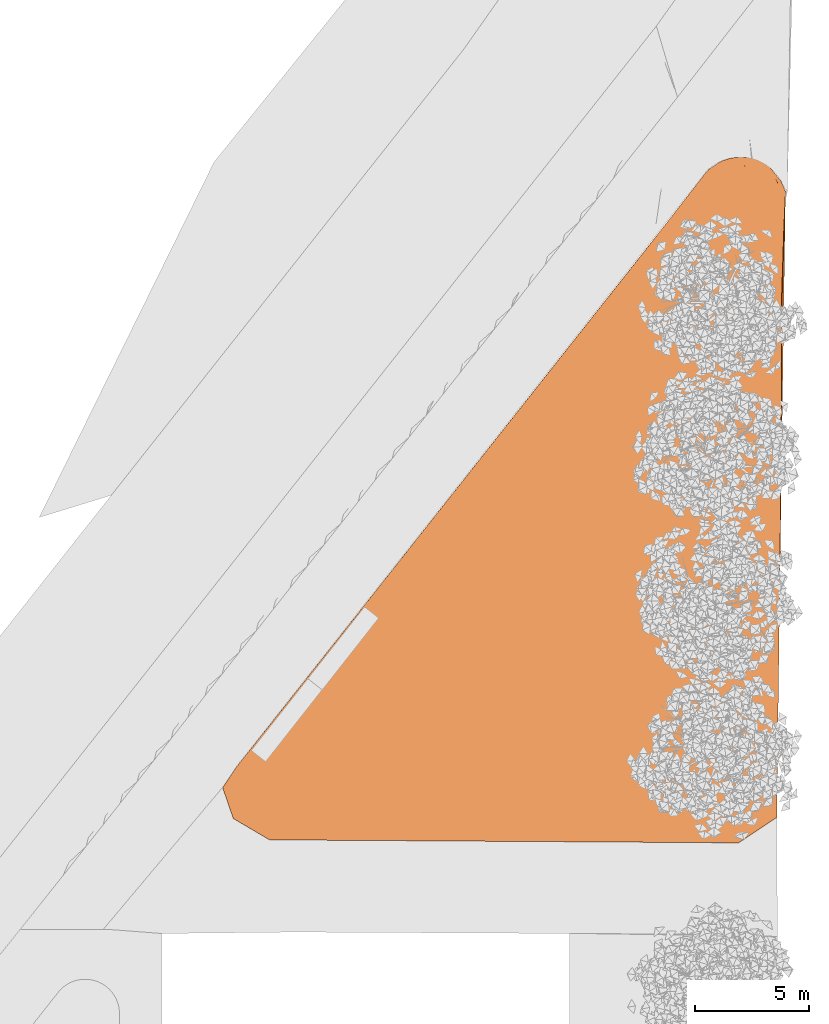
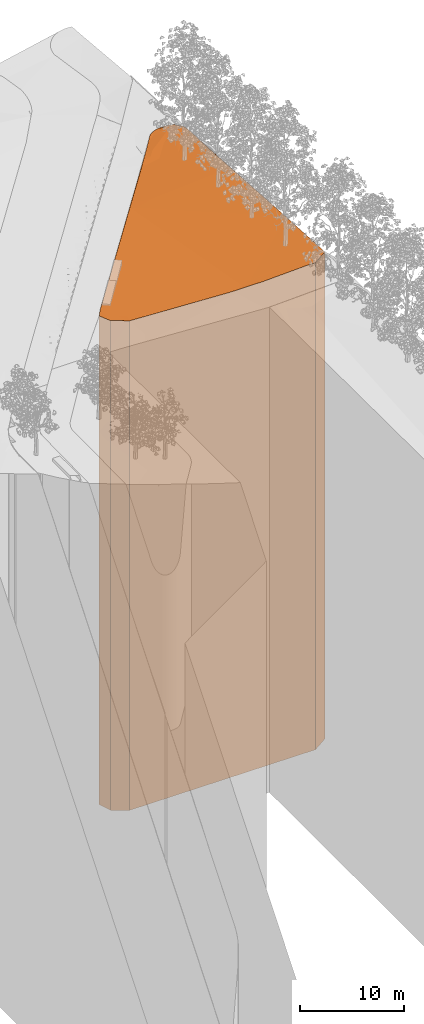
# One storey, part 67 of 69: 1 proxy.
"""IFC2X3 building model written with IfcOpenShell, lengths in millimetres."""

from ifc_helpers import new_model, entity, si_unit, converted_unit, derived_unit, money_unit, direction, frame, origin_with_axes, place, context, subcontext, project, spatial, faceted_brep, material, type_object, element, save


model = new_model("IFC2X3")

# Units and contexts
model_context = context("Model", 3, precision=0.01, world=origin_with_axes(), true_north=direction((0.0, 1.0)))
body_context = subcontext(model_context, "Body", "Model", "MODEL_VIEW")
ifc_project = project(units=[si_unit("LENGTHUNIT", "METRE", prefix="MILLI"), si_unit("AREAUNIT", "SQUARE_METRE"), si_unit("VOLUMEUNIT", "CUBIC_METRE"), converted_unit("PLANEANGLEUNIT", "DEGREE", entity("IfcPlaneAngleMeasure", 0.0174532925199), si_unit("PLANEANGLEUNIT", "RADIAN"), dimensions=[0, 0, 0, 0, 0, 0, 0]), si_unit("SOLIDANGLEUNIT", "STERADIAN"), money_unit("EUR"), converted_unit("TIMEUNIT", "Year", entity("IfcTimeMeasure", 31556926.0), si_unit("TIMEUNIT", "SECOND"), dimensions=[0, 0, 1, 0, 0, 0, 0]), si_unit("MASSUNIT", "GRAM", prefix="KILO"), si_unit("THERMODYNAMICTEMPERATUREUNIT", "DEGREE_CELSIUS"), si_unit("LUMINOUSINTENSITYUNIT", "LUMEN"), si_unit("ENERGYUNIT", "JOULE", prefix="MEGA"), derived_unit("THERMALCONDUCTANCEUNIT", [(si_unit("POWERUNIT", "WATT"), 1), (si_unit("LENGTHUNIT", "METRE"), -1), (si_unit("THERMODYNAMICTEMPERATUREUNIT", "KELVIN"), -1)]), derived_unit("SPECIFICHEATCAPACITYUNIT", [(si_unit("ENERGYUNIT", "JOULE"), 1), (si_unit("MASSUNIT", "GRAM", prefix="KILO"), -1), (si_unit("THERMODYNAMICTEMPERATUREUNIT", "KELVIN"), -1)]), derived_unit("MASSDENSITYUNIT", [(si_unit("MASSUNIT", "GRAM", prefix="KILO"), 1), (si_unit("VOLUMEUNIT", "CUBIC_METRE"), -1)])], contexts=[model_context])

# Site, building, storey
site_placement = place(None, origin_with_axes())
site = spatial("IfcSite", under=ifc_project, at=site_placement, Name="Puškini 31, Narva", CompositionType="ELEMENT")
building_placement = place(site_placement, origin_with_axes())
building = spatial("IfcBuilding", under=site, at=building_placement, Name="Narva Riigigümnaasium", CompositionType="ELEMENT")
storey_placement = place(building_placement, origin_with_axes())
storey = spatial("IfcBuildingStorey", under=building, at=storey_placement, Name="1.korrus 0.00", CompositionType="ELEMENT", Elevation=0.0)

# Proxy
ifc_material = material(Name="Roheala")
building_element_proxy_type = type_object("IfcBuildingElementProxyType", Name="Roheala", PredefinedType="NOTDEFINED")
proxy_placement = place(storey_placement, frame((39629.7251084, 258402.441292, -61100.0), z_axis=(0.0, 0.0, 1.0), x_axis=(1.0, 0.0, 0.0)))
element("IfcBuildingElementProxy", 1, at=proxy_placement, inside=storey, type_object=building_element_proxy_type, material=ifc_material, Name="Roheala", context=body_context, shape_type="Brep", body=[
    faceted_brep([(2904.54553441, 3594.56896008, 57000.0), (2609.96351291, 2399.85161199, 57100.0), (6367.47388506, 102.533447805, 57100.0), (8639.69294336, 88.1359727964, 57000.0), (662.749574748, 3392.37241465, 57100.0), (1420.95396237, 4350.77528567, 57000.0), (2315.38149141, 1205.1342639, 57200.0), (4095.25482502, 116.930922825, 57200.0), (22549.370647, 0.0, 0.0), (22549.370647, 0.0, 57000.0), (21452.1332132, 6.9524320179, 57000.0), (19117.1116972, 21.7478426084, 56900.0), (16819.8848379, 36.3037746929, 56800.0), (13184.1310617, 59.3410227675, 56800.0), (10911.9120034, 73.7384977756, 56900.0), (2050.25767205, 129.888650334, 57300.0), (2050.25767205, 129.888650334, 0.0), (3199.12755591, 4789.28630818, 56900.0), (1393.01699431, 1675.2756964, 57200.0), (2179.15835024, 5309.17815759, 56900.0), (2937.36273787, 6267.5810286, 56800.0), (3695.56712573, 7225.98390053, 56700.0), (19289.7292574, 26944.9830587, 54700.0), (24215.7741801, 1107.10190918, 0.0), (24215.7741801, 1107.10190918, 57000.0), (24226.5201784, 1927.80190138, 57000.0), (22790.3170119, 466.187674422, 57000.0), (24240.0546832, 2961.46743889, 56900.0), (18506.4485205, 1004.11159893, 56800.0), (14764.4031787, 470.148042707, 56700.0), (3493.70957741, 5984.00365627, 56800.0), (465.393469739, 1062.17178603, 57300.0), (465.393469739, 1062.17178603, 0.0), (0.0, 2418.94348962, 0.0), (662.749574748, 3392.37241465, 0.0), (19289.7292574, 26944.9830587, 0.0), (21077.3930812, 29241.2131648, 0.0), (21220.7590855, 29416.6556468, 0.0), (21709.3009811, 29739.7990023, 0.0), (21828.7783874, 29796.9561786, 0.0), (21964.1467099, 29849.4440576, 0.0), (22102.8466514, 29892.3612619, 0.0), (22244.2024796, 29925.4987033, 0.0), (22387.5255231, 29948.6949393, 0.0), (22532.1175266, 29961.8369604, 0.0), (22677.2740523, 29964.8607399, 0.0), (22822.2879121, 29957.7515463, 0.0), (22894.3702627, 29949.1477805, 0.0), (22959.3677245, 29945.693599, 0.0), (23086.0344585, 29928.7940434, 0.0), (23210.9581062, 29901.8842169, 0.0), (23333.3488598, 29865.134252, 0.0), (23452.4329257, 29818.7764938, 0.0), (23567.4574161, 29763.104031, 0.0), (23677.6951091, 29698.4688429, 0.0), (23782.4490465, 29625.2795739, 0.0), (23881.0569403, 29543.9989501, 0.0), (23972.8953594, 29455.1408539, 0.0), (24015.1395157, 29407.2039643, 0.0), (24403.5928757, 28919.9528302, 0.0), (24596.7960225, 28465.1751512, 0.0), (24342.9498848, 10819.8431241, 0.0), (558.877940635, 2165.9510316, 57200.0), (3788.29159879, 7178.72100438, 56700.0), (4436.84861418, 8162.99550119, 56600.0), (24342.9498848, 10819.8431241, 56300.0), (24325.9346117, 9520.34221377, 56400.0), (24308.801357, 8211.8307352, 56500.0), (24291.6162666, 6899.36043477, 56600.0), (24274.4311763, 5586.89013434, 56700.0), (24257.246086, 4274.41983468, 56800.0), (18700.6711012, 1239.4443765, 56800.0), (15868.5033408, 995.611378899, 56700.0), (8232.71680745, 4461.42743784, 56700.0), (0.0, 2418.94348962, 57200.0), (20481.5051415, 28475.8031317, 54600.0), (21077.3930812, 29241.2131648, 54600.0), (21220.7590855, 29416.6556468, 54600.0), (21709.3009811, 29739.7990023, 54584.1176568), (21828.7783874, 29796.9561786, 54586.4709635), (21964.1467099, 29849.4440576, 54589.0978971), (22102.8466514, 29892.3612619, 54591.7546324), (22244.2024796, 29925.4987033, 54594.4282263), (22387.5255231, 29948.6949393, 54597.1056532), (22532.1175266, 29961.8369604, 54599.7738689), (22677.2740523, 29964.8607399, 54602.4198743), (22822.2879121, 29957.7515463, 54605.0307782), (22894.3702627, 29949.1477805, 54606.3123193), (22959.3677245, 29945.693599, 54615.6502496), (23086.0344585, 29928.7940434, 54634.5366326), (23210.9581062, 29901.8842169, 54653.8568503), (23333.3488598, 29865.134252, 54673.4887541), (23452.4329257, 29818.7764938, 54693.3082248), (23567.4574161, 29763.104031, 54713.1899573), (23677.6951091, 29698.4688429, 54733.0082529), (23782.4490465, 29625.2795739, 54752.637814), (23881.0569403, 29543.9989501, 54771.9545361), (23972.8953594, 29455.1408539, 54790.8362927), (24015.1395157, 29407.2039643, 54800.0), (24403.5928757, 28919.9528302, 54840.0439094), (24596.7960225, 28465.1751512, 54875.3748262), (5173.89937773, 9094.65928382, 56500.0), (5910.95014142, 10026.3230674, 56400.0), (6648.00090497, 10957.98685, 56300.0), (7385.05166877, 11889.6506335, 56200.0), (8122.10243233, 12821.3144161, 56100.0), (8859.15319601, 13752.9781997, 56000.0), (9596.20395957, 14684.6419823, 55900.0), (10333.2547233, 15616.3057659, 55800.0), (11070.3054869, 16547.9695485, 55700.0), (11807.3562506, 17479.633332, 55600.0), (12544.4070142, 18411.2971146, 55500.0), (22490.3759356, 10350.3329947, 56300.0), (23639.3221992, 9346.3294662, 56400.0), (22918.6588534, 7452.54135439, 56500.0), (19393.581097, 4224.07636665, 56600.0), (14609.147061, 1947.06857341, 56600.0), (22030.3563656, 28979.5615136, 54700.0), (21395.0475085, 29153.9959484, 54600.0), (21488.0065542, 29263.1704377, 54600.0), (21288.0290471, 29407.4084431, 54600.0), (22309.2335033, 29307.0849833, 54700.0), (22830.4941911, 29567.3565379, 54800.0), (23130.4604524, 29350.999528, 54800.0), (23951.6874006, 29394.9140727, 54800.0), (24261.6395972, 28838.3689249, 54900.0), (24356.7604959, 12118.5318556, 56200.0), (14453.8909432, 3423.98910413, 56500.0), (14298.6348257, 4900.90963575, 56400.0), (14143.378708, 6377.83016645, 56300.0), (13988.1225904, 7854.75069807, 56200.0), (13832.8664727, 9331.67122878, 56100.0), (13677.610355, 10808.5917604, 56000.0), (13522.3542374, 12285.5122911, 55900.0), (13367.0981198, 13762.4328227, 55800.0), (13211.8420021, 15239.3533534, 55700.0), (13056.5858843, 16716.2738842, 55600.0), (12901.3297667, 18193.1944158, 55500.0), (13279.6829226, 19340.7174047, 55400.0), (21341.4296717, 11354.3365223, 56200.0), (19999.109117, 26825.5372316, 54800.0), (22665.6652226, 28805.1270797, 54800.0), (23936.2829368, 28456.2582119, 54900.0), (24378.3532179, 14714.381475, 56000.0), (24367.5568569, 13416.4566648, 56100.0), (24410.742301, 18608.1559044, 55700.0), (24399.9459399, 17310.2310943, 55800.0), (24389.1495789, 16012.3062851, 55900.0), (20192.4834079, 12358.3400499, 56100.0), (19043.5371441, 13362.3435775, 56000.0), (17894.5908804, 14366.3471061, 55900.0), (16745.6446166, 15370.3506337, 55800.0), (15596.6983528, 16374.3541613, 55700.0), (14447.7520889, 17378.3576889, 55600.0), (13298.8058253, 18382.3612174, 55500.0), (14013.7755939, 20268.6420318, 55300.0), (14747.8682653, 21196.5666599, 55200.0), (15481.9609367, 22124.491287, 55100.0), (16216.0536081, 23052.4159151, 55000.0), (16950.1462794, 23980.3405422, 54900.0), (17684.238951, 24908.2651703, 54800.0), (19464.9014581, 26180.7806161, 54800.0), (23300.9740797, 28630.6926458, 54800.0), (19316.2237207, 25997.904674, 54800.0), (18418.3316223, 25836.1897974, 54800.0), (19864.8340468, 25301.0012967, 54800.0), (20225.908552, 25745.128586, 54800.0), (21523.2700092, 27310.9660801, 54800.0), (24571.5917939, 28281.823778, 54900.0), (24417.5655912, 19927.311038, 55600.0), (22374.9340363, 19387.3961006, 55600.0), (15563.714953, 18956.3721916, 55500.0), (22059.2753516, 22513.3877909, 55200.0), (22607.8856779, 21816.4844145, 55300.0), (21510.6650255, 23210.2911673, 55100.0), (20962.0546993, 23907.1945438, 55000.0), (20413.444373, 24604.0979202, 54900.0), (23156.4960041, 21119.581038, 55400.0), (20986.9156461, 25309.4765568, 54900.0), (23047.4309016, 27796.3949295, 54900.0), (21747.9227401, 24873.8245266, 55000.0), (24525.8363013, 26872.4576762, 55100.0), (24253.7166566, 19725.7742852, 55600.0), (24415.1183825, 21296.0035912, 55500.0), (24412.6711741, 22664.6961453, 55400.0), (23705.1063303, 20422.6776616, 55500.0), (23269.936928, 24002.5204663, 55200.0), (24030.9440222, 23566.8684371, 55300.0), (22508.929834, 24438.1724965, 55100.0), (24480.0808088, 25463.0915754, 55200.0), (24434.3253161, 24053.7254737, 55300.0)], [[[0, 1, 2, 3]], [[4, 1, 0, 5]], [[1, 6, 7, 2]], [[8, 9, 10, 11, 12, 13, 14, 3, 2, 7, 15, 16]], [[3, 14, 17, 0]], [[1, 4, 18, 6]], [[0, 17, 19, 5]], [[5, 19, 20, 21, 22, 4]], [[15, 7, 6]], [[23, 24, 9, 8]], [[9, 24, 25, 26, 10]], [[10, 27, 11]], [[12, 11, 28]], [[13, 12, 29]], [[17, 14, 13, 30]], [[16, 15, 31, 32]], [[33, 34, 35, 36, 37, 38, 39, 40, 41, 42, 43, 44, 45, 46, 47, 48, 49, 50, 51, 52, 53, 54, 55, 56, 57, 58, 59, 60, 61, 23, 8, 16, 32]], [[4, 62, 18]], [[6, 18, 15]], [[17, 30, 20, 19]], [[30, 63, 21, 20]], [[64, 22, 21]], [[34, 4, 22, 35]], [[61, 65, 66, 67, 68, 69, 70, 27, 25, 24, 23]], [[25, 27, 26]], [[26, 27, 10]], [[71, 11, 27]], [[71, 28, 11]], [[28, 72, 12]], [[29, 12, 72]], [[13, 29, 73]], [[63, 30, 13, 73]], [[18, 62, 31, 15]], [[32, 31, 74, 33]], [[33, 74, 4, 34]], [[35, 22, 75, 76, 36]], [[36, 76, 77, 37]], [[37, 77, 78, 38]], [[38, 78, 79, 39]], [[39, 79, 80, 40]], [[40, 80, 81, 41]], [[41, 81, 82, 42]], [[42, 82, 83, 43]], [[43, 83, 84, 44]], [[44, 84, 85, 45]], [[45, 85, 86, 46]], [[46, 86, 87, 47]], [[47, 87, 88, 48]], [[48, 88, 89, 49]], [[49, 89, 90, 50]], [[50, 90, 91, 51]], [[51, 91, 92, 52]], [[52, 92, 93, 53]], [[53, 93, 94, 54]], [[54, 94, 95, 55]], [[55, 95, 96, 56]], [[56, 96, 97, 57]], [[57, 97, 98, 58]], [[58, 98, 99, 59]], [[59, 99, 100, 60]], [[60, 100, 65, 61]], [[4, 74, 62]], [[21, 63, 64]], [[101, 102, 103, 104, 105, 106, 107, 108, 109, 110, 111, 22, 64]], [[65, 112, 113, 66]], [[66, 113, 67]], [[67, 114, 115, 68]], [[115, 72, 69, 68]], [[71, 70, 69, 72]], [[27, 70, 71]], [[71, 72, 28]], [[72, 115, 116, 29]], [[116, 64, 73, 29]], [[63, 73, 64]], [[74, 31, 62]], [[75, 22, 117, 118]], [[77, 76, 75, 118, 119, 120]], [[77, 120, 78]], [[79, 78, 121]], [[80, 79, 121]], [[81, 80, 121]], [[82, 81, 121]], [[83, 82, 121]], [[84, 83, 122]], [[85, 84, 122]], [[85, 122, 86]], [[86, 122, 87]], [[87, 122, 88]], [[88, 122, 89]], [[89, 122, 90]], [[91, 90, 123]], [[92, 91, 123]], [[93, 92, 123]], [[93, 123, 94]], [[94, 123, 95]], [[96, 95, 124]], [[97, 96, 124]], [[98, 97, 124]], [[99, 98, 125]], [[99, 125, 100]], [[126, 65, 100]], [[127, 128, 102, 101]], [[102, 128, 129, 103]], [[103, 129, 130, 104]], [[104, 130, 131, 105]], [[105, 131, 132, 106]], [[107, 106, 132, 133]], [[107, 133, 134, 108]], [[109, 108, 134, 135]], [[136, 110, 109, 135]], [[110, 136, 137, 111]], [[138, 22, 111]], [[127, 101, 64, 116]], [[139, 112, 65, 126]], [[128, 113, 112, 129]], [[114, 67, 113]], [[115, 114, 127, 116]], [[22, 140, 141, 117]], [[118, 117, 119]], [[78, 120, 119]], [[117, 121, 78]], [[121, 122, 83]], [[123, 90, 122]], [[123, 124, 95]], [[124, 125, 98]], [[142, 100, 125]], [[143, 144, 126, 100, 145, 146, 147]], [[128, 127, 114, 113]], [[130, 129, 112, 139]], [[131, 130, 139, 148]], [[148, 149, 132, 131]], [[133, 132, 149, 150]], [[150, 151, 134, 133]], [[134, 151, 152, 135]], [[135, 152, 153, 136]], [[136, 153, 154, 137]], [[137, 154, 111]], [[155, 156, 157, 158, 159, 160, 22, 138]], [[138, 111, 154]], [[126, 144, 148, 139]], [[161, 140, 22]], [[162, 124, 123, 141, 140, 161, 163, 164, 160, 165, 166, 167]], [[117, 141, 121]], [[119, 117, 78]], [[121, 141, 122]], [[123, 122, 141]], [[124, 162, 142, 125]], [[100, 142, 168]], [[144, 143, 149, 148]], [[169, 145, 100]], [[151, 146, 145, 152]], [[147, 146, 151, 150]], [[149, 143, 147, 150]], [[152, 145, 170, 153]], [[171, 154, 153, 170]], [[172, 156, 155, 173]], [[157, 156, 172, 174]], [[158, 157, 174, 175]], [[176, 159, 158, 175]], [[159, 176, 165, 160]], [[164, 22, 160]], [[155, 138, 177, 173]], [[154, 171, 138]], [[163, 161, 22]], [[164, 163, 22]], [[166, 165, 176, 178]], [[167, 166, 178, 179]], [[179, 142, 162, 167]], [[142, 180, 168]], [[168, 181, 100]], [[169, 182, 145]], [[183, 169, 100, 184]], [[182, 170, 145]], [[185, 171, 170, 182]], [[186, 172, 173, 187]], [[188, 174, 172, 186]], [[180, 175, 174, 188]], [[178, 176, 175, 180]], [[138, 171, 185, 177]], [[187, 173, 177, 184]], [[180, 179, 178]], [[179, 180, 142]], [[181, 168, 180]], [[189, 190, 100, 181]], [[183, 185, 182, 169]], [[190, 184, 100]], [[184, 177, 185, 183]], [[189, 186, 187, 190]], [[189, 181, 188, 186]], [[180, 188, 181]], [[190, 187, 184]]]),
])

save(model, "model.ifc")
